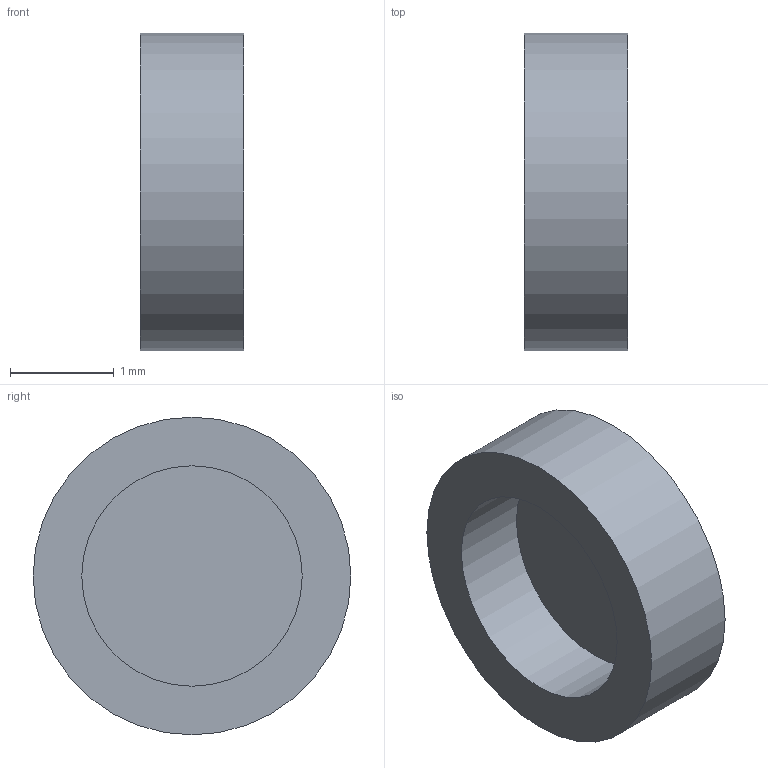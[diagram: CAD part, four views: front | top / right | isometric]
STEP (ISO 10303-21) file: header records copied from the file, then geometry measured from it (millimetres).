
FILE_DESCRIPTION(/* description */ ('STEP AP242 Edition 2','CAx-IF Rec.Pracs.---Representation and Presentation of Product Manufacturing Information (PMI)---4.0---2014-10-13','CAx-IF Rec.Pracs.---3D Tessellated Geometry---0.4---2014-09-14','2;1','CAx-IF Rec.Pracs.---User Defined Attributes---1.5---2016-08-15'),/* implementation_level */ '2;1');
FILE_NAME(/* name */ 'Main Assembly - Cap',/* time_stamp */ '2026-06-22T17:37:56Z',/* author */ (''),/* organization */ (''),/* preprocessor_version */ 'ST-DEVELOPER v20',/* originating_system */ 'ONSHAPE BY PTC INC, 1.216',/* authorisation */ ' ');
FILE_SCHEMA (('AP242_MANAGED_MODEL_BASED_3D_ENGINEERING_MIM_LF { 1 0 10303 442 3 1 4 }'));
Length unit declared in the file: metre
Products named in the file (1): Cap
Bounding box: 1 x 3.06 x 3.06 mm (x, y, z)
Volume: 4.7 mm3; surface area: 29.3 mm2
Topology: 1 solids, 1 shells, 5 faces, 6 edges, 4 vertices
Faces by surface type: plane 3, cylinder 2
Full cylindrical faces by diameter (mm): 2.12 x1, 3.057 x1
Entity records: 116 total; most frequent: DIRECTION 20, CARTESIAN_POINT 14, AXIS2_PLACEMENT_3D 10, ORIENTED_EDGE 8, EDGE_LOOP 8, FACE_BOUND 8, ADVANCED_FACE 5, EDGE_CURVE 4
